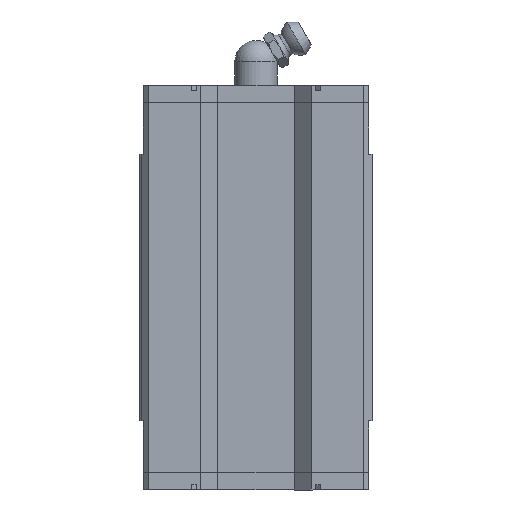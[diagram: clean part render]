
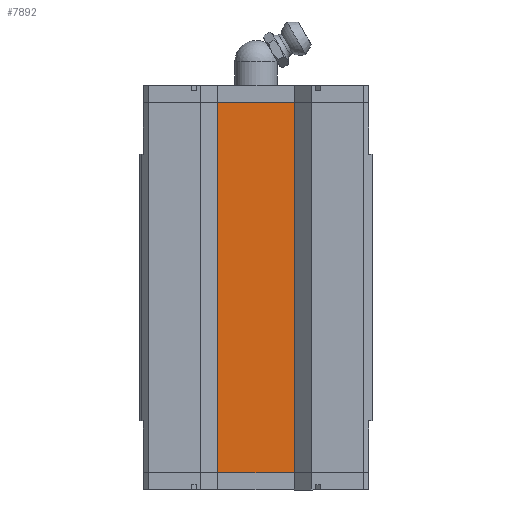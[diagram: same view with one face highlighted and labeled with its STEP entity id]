
A CAD part, front view. The second image highlights one B-rep face of the part: STEP entity #7892.
In plain terms, the highlighted planar face has unit normal (0, -1, 0).
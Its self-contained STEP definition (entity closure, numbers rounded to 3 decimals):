
#198 = CARTESIAN_POINT ( 'NONE',  ( 7.228, 13.2, -35.075 ) ) ;
#205 = PLANE ( 'NONE',  #2367 ) ;
#207 = DIRECTION ( 'NONE',  ( 0., 1., 0. ) ) ;
#208 = DIRECTION ( 'NONE',  ( 0., 0., 1. ) ) ;
#2367 = AXIS2_PLACEMENT_3D ( 'NONE', #198, #207, #208 ) ;
#3697 = VECTOR ( 'NONE', #7571, 1000. ) ;
#3712 = LINE ( 'NONE', #7557, #3697 ) ;
#3729 = VECTOR ( 'NONE', #7551, 1000. ) ;
#3734 = VECTOR ( 'NONE', #7534, 1000. ) ;
#3738 = LINE ( 'NONE', #7540, #3734 ) ;
#3749 = LINE ( 'NONE', #7546, #3729 ) ;
#3761 = VECTOR ( 'NONE', #7531, 1000. ) ;
#3780 = LINE ( 'NONE', #7519, #3761 ) ;
#5504 = FACE_OUTER_BOUND ( 'NONE', #10261, .T. ) ;
#7519 = CARTESIAN_POINT ( 'NONE',  ( 7.228, 13.2, -35.075 ) ) ;
#7531 = DIRECTION ( 'NONE',  ( 0., 0., -1. ) ) ;
#7534 = DIRECTION ( 'NONE',  ( 1., 0., 0. ) ) ;
#7540 = CARTESIAN_POINT ( 'NONE',  ( 21.34, 13.2, -35.075 ) ) ;
#7546 = CARTESIAN_POINT ( 'NONE',  ( 21.34, 13.2, 35.075 ) ) ;
#7551 = DIRECTION ( 'NONE',  ( -1., 0., 0. ) ) ;
#7557 = CARTESIAN_POINT ( 'NONE',  ( -7.228, 13.2, -35.075 ) ) ;
#7571 = DIRECTION ( 'NONE',  ( 0., 0., 1. ) ) ;
#7892 = ADVANCED_FACE ( 'NONE', ( #5504 ), #205, .F. ) ;
#9991 = EDGE_CURVE ( 'NONE', #10570, #10566, #3780, .T. ) ;
#9999 = EDGE_CURVE ( 'NONE', #10575, #10566, #3738, .T. ) ;
#10000 = EDGE_CURVE ( 'NONE', #10570, #10577, #3749, .T. ) ;
#10009 = EDGE_CURVE ( 'NONE', #10575, #10577, #3712, .T. ) ;
#10202 = ORIENTED_EDGE ( 'NONE', *, *, #10009, .F. ) ;
#10203 = ORIENTED_EDGE ( 'NONE', *, *, #10000, .T. ) ;
#10204 = ORIENTED_EDGE ( 'NONE', *, *, #9991, .F. ) ;
#10205 = ORIENTED_EDGE ( 'NONE', *, *, #9999, .T. ) ;
#10261 = EDGE_LOOP ( 'NONE', ( #10205, #10204, #10203, #10202 ) ) ;
#10566 = VERTEX_POINT ( 'NONE', #12299 ) ;
#10570 = VERTEX_POINT ( 'NONE', #12303 ) ;
#10575 = VERTEX_POINT ( 'NONE', #12308 ) ;
#10577 = VERTEX_POINT ( 'NONE', #12310 ) ;
#12299 = CARTESIAN_POINT ( 'NONE',  ( 7.228, 13.2, -35.075 ) ) ;
#12303 = CARTESIAN_POINT ( 'NONE',  ( 7.228, 13.2, 35.075 ) ) ;
#12308 = CARTESIAN_POINT ( 'NONE',  ( -7.228, 13.2, -35.075 ) ) ;
#12310 = CARTESIAN_POINT ( 'NONE',  ( -7.228, 13.2, 35.075 ) ) ;
